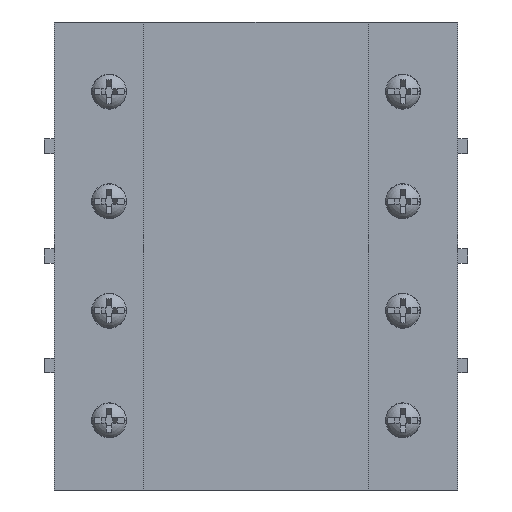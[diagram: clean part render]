
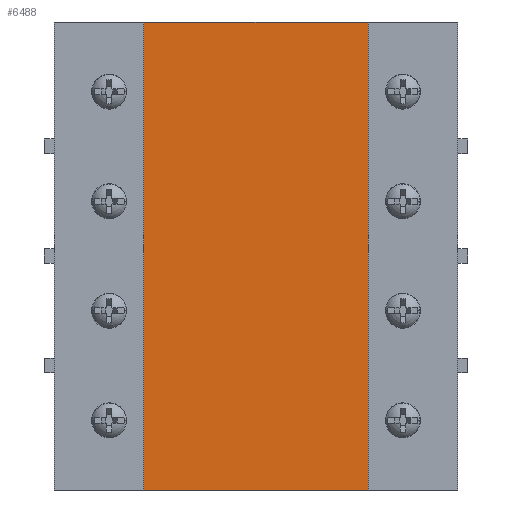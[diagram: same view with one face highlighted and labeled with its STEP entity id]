
A CAD part, front view. The second image highlights one B-rep face of the part: STEP entity #6488.
In plain terms, the highlighted planar face has unit normal (0, -1, 0).
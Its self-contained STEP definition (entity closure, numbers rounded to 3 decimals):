
#27=DIRECTION('',(1.,0.,0.));
#28=VECTOR('',#27,45.);
#29=CARTESIAN_POINT('',(-22.5,4.,-35.));
#30=LINE('',#29,#28);
#1578=DIRECTION('',(0.,0.,1.));
#1579=VECTOR('',#1578,94.);
#1580=CARTESIAN_POINT('',(22.5,4.,-35.));
#1581=LINE('',#1580,#1579);
#1582=DIRECTION('',(0.,0.,1.));
#1583=VECTOR('',#1582,94.);
#1584=CARTESIAN_POINT('',(-22.5,4.,-35.));
#1585=LINE('',#1584,#1583);
#1834=DIRECTION('',(1.,0.,0.));
#1835=VECTOR('',#1834,45.);
#1836=CARTESIAN_POINT('',(-22.5,4.,59.));
#1837=LINE('',#1836,#1835);
#3276=CARTESIAN_POINT('',(-22.5,4.,-35.));
#3277=VERTEX_POINT('',#3276);
#3278=CARTESIAN_POINT('',(22.5,4.,-35.));
#3279=VERTEX_POINT('',#3278);
#3960=CARTESIAN_POINT('',(-22.5,4.,59.));
#3961=VERTEX_POINT('',#3960);
#3962=CARTESIAN_POINT('',(22.5,4.,59.));
#3963=VERTEX_POINT('',#3962);
#6475=CARTESIAN_POINT('',(-22.5,4.,-35.));
#6476=DIRECTION('',(0.,-1.,0.));
#6477=DIRECTION('',(1.,0.,0.));
#6478=AXIS2_PLACEMENT_3D('',#6475,#6476,#6477);
#6479=PLANE('',#6478);
#6481=ORIENTED_EDGE('',*,*,#6480,.T.);
#6483=ORIENTED_EDGE('',*,*,#6482,.T.);
#6484=ORIENTED_EDGE('',*,*,#6466,.F.);
#6485=ORIENTED_EDGE('',*,*,#4303,.F.);
#6486=EDGE_LOOP('',(#6481,#6483,#6484,#6485));
#6487=FACE_OUTER_BOUND('',#6486,.F.);
#6488=ADVANCED_FACE('',(#6487),#6479,.T.);
#4303=EDGE_CURVE('',#3277,#3279,#30,.T.);
#6466=EDGE_CURVE('',#3279,#3963,#1581,.T.);
#6480=EDGE_CURVE('',#3277,#3961,#1585,.T.);
#6482=EDGE_CURVE('',#3961,#3963,#1837,.T.);
